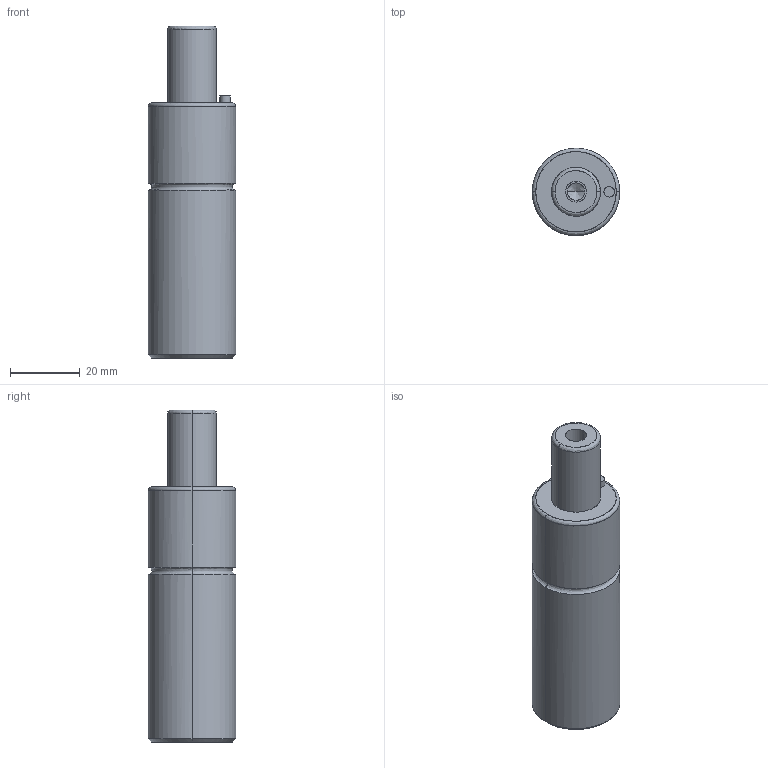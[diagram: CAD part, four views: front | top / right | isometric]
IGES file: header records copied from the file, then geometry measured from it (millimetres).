
Global section: file name: E:\UnigraphicsGraphicData\MISUMI_PRESS-PARTS\IGES\3d_gsm25-20_03894_r00.igs; native system: NX V5.0; preprocessor: UGS NX IGES V5.0; author: MISUMI; date: 20110105.160807; units: millimetre
Bounding box: 25 x 24.93 x 95 mm (x, y, z)
Surface area: 8045.1 mm2 (no closed solid volume)
Topology: 0 solids, 0 shells, 34 faces, 208 edges, 204 vertices
Faces by surface type: bspline 34
